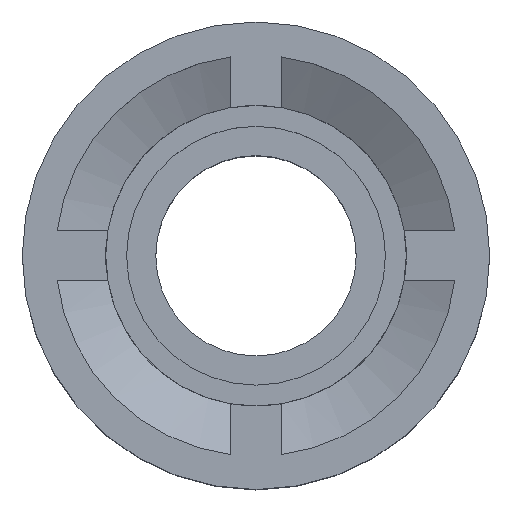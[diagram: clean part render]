
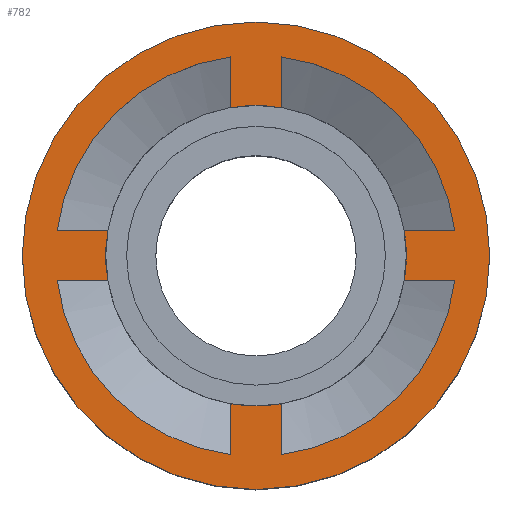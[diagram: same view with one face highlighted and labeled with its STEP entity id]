
A CAD part, top view. The second image highlights one B-rep face of the part: STEP entity #782.
In plain terms, the highlighted planar face has unit normal (0, 0, 1).
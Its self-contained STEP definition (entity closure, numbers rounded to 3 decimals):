
#21=PLANE('',#879);
#86=CIRCLE('',#851,3.6);
#88=CIRCLE('',#853,3.6);
#90=CIRCLE('',#855,3.6);
#92=CIRCLE('',#857,3.6);
#98=CIRCLE('',#868,4.8);
#99=CIRCLE('',#870,4.8);
#100=CIRCLE('',#872,4.8);
#101=CIRCLE('',#874,4.8);
#104=CIRCLE('',#880,5.6);
#216=ORIENTED_EDGE('',*,*,#409,.F.);
#217=ORIENTED_EDGE('',*,*,#418,.T.);
#218=ORIENTED_EDGE('',*,*,#386,.T.);
#219=ORIENTED_EDGE('',*,*,#419,.T.);
#220=ORIENTED_EDGE('',*,*,#412,.F.);
#221=ORIENTED_EDGE('',*,*,#420,.F.);
#222=ORIENTED_EDGE('',*,*,#382,.F.);
#223=ORIENTED_EDGE('',*,*,#421,.F.);
#224=ORIENTED_EDGE('',*,*,#414,.F.);
#225=ORIENTED_EDGE('',*,*,#422,.F.);
#226=ORIENTED_EDGE('',*,*,#378,.F.);
#227=ORIENTED_EDGE('',*,*,#423,.F.);
#228=ORIENTED_EDGE('',*,*,#405,.F.);
#229=ORIENTED_EDGE('',*,*,#424,.T.);
#230=ORIENTED_EDGE('',*,*,#390,.T.);
#231=ORIENTED_EDGE('',*,*,#425,.T.);
#232=ORIENTED_EDGE('',*,*,#426,.T.);
#378=EDGE_CURVE('',#480,#481,#86,.F.);
#382=EDGE_CURVE('',#484,#485,#88,.F.);
#386=EDGE_CURVE('',#489,#488,#90,.F.);
#390=EDGE_CURVE('',#478,#492,#92,.F.);
#405=EDGE_CURVE('',#502,#503,#98,.T.);
#409=EDGE_CURVE('',#505,#504,#99,.T.);
#412=EDGE_CURVE('',#507,#506,#100,.T.);
#414=EDGE_CURVE('',#508,#509,#101,.T.);
#418=EDGE_CURVE('',#505,#489,#554,.T.);
#419=EDGE_CURVE('',#488,#506,#555,.T.);
#420=EDGE_CURVE('',#485,#507,#556,.T.);
#421=EDGE_CURVE('',#509,#484,#557,.T.);
#422=EDGE_CURVE('',#481,#508,#558,.T.);
#423=EDGE_CURVE('',#503,#480,#559,.T.);
#424=EDGE_CURVE('',#502,#478,#560,.T.);
#425=EDGE_CURVE('',#492,#504,#561,.T.);
#426=EDGE_CURVE('',#512,#512,#104,.T.);
#478=VERTEX_POINT('',#1266);
#480=VERTEX_POINT('',#1270);
#481=VERTEX_POINT('',#1272);
#484=VERTEX_POINT('',#1278);
#485=VERTEX_POINT('',#1280);
#488=VERTEX_POINT('',#1286);
#489=VERTEX_POINT('',#1288);
#492=VERTEX_POINT('',#1294);
#502=VERTEX_POINT('',#1348);
#503=VERTEX_POINT('',#1350);
#504=VERTEX_POINT('',#1354);
#505=VERTEX_POINT('',#1356);
#506=VERTEX_POINT('',#1360);
#507=VERTEX_POINT('',#1362);
#508=VERTEX_POINT('',#1366);
#509=VERTEX_POINT('',#1368);
#512=VERTEX_POINT('',#1386);
#554=LINE('',#1377,#602);
#555=LINE('',#1378,#603);
#556=LINE('',#1379,#604);
#557=LINE('',#1380,#605);
#558=LINE('',#1381,#606);
#559=LINE('',#1382,#607);
#560=LINE('',#1383,#608);
#561=LINE('',#1384,#609);
#602=VECTOR('',#1065,1000.);
#603=VECTOR('',#1066,1000.);
#604=VECTOR('',#1067,1000.);
#605=VECTOR('',#1068,1000.);
#606=VECTOR('',#1069,1000.);
#607=VECTOR('',#1070,1000.);
#608=VECTOR('',#1071,1000.);
#609=VECTOR('',#1072,1000.);
#642=EDGE_LOOP('',(#216,#217,#218,#219,#220,#221,#222,#223,#224,#225,#226,
#227,#228,#229,#230,#231));
#643=EDGE_LOOP('',(#232));
#706=FACE_BOUND('',#642,.T.);
#707=FACE_BOUND('',#643,.T.);
#782=ADVANCED_FACE('',(#706,#707),#21,.T.);
#851=AXIS2_PLACEMENT_3D('',#1271,#993,#994);
#853=AXIS2_PLACEMENT_3D('',#1279,#999,#1000);
#855=AXIS2_PLACEMENT_3D('',#1287,#1005,#1006);
#857=AXIS2_PLACEMENT_3D('',#1295,#1011,#1012);
#868=AXIS2_PLACEMENT_3D('',#1349,#1034,#1035);
#870=AXIS2_PLACEMENT_3D('',#1357,#1041,#1042);
#872=AXIS2_PLACEMENT_3D('',#1363,#1047,#1048);
#874=AXIS2_PLACEMENT_3D('',#1367,#1052,#1053);
#879=AXIS2_PLACEMENT_3D('',#1376,#1063,#1064);
#880=AXIS2_PLACEMENT_3D('',#1385,#1073,#1074);
#993=DIRECTION('',(0.,0.,-1.));
#994=DIRECTION('',(-1.,0.,0.));
#999=DIRECTION('',(0.,0.,-1.));
#1000=DIRECTION('',(-1.,0.,0.));
#1005=DIRECTION('',(0.,0.,1.));
#1006=DIRECTION('',(1.,0.,0.));
#1011=DIRECTION('',(0.,0.,1.));
#1012=DIRECTION('',(1.,0.,0.));
#1034=DIRECTION('',(0.,0.,1.));
#1035=DIRECTION('',(1.,0.,0.));
#1041=DIRECTION('',(0.,0.,1.));
#1042=DIRECTION('',(1.,0.,0.));
#1047=DIRECTION('',(0.,0.,1.));
#1048=DIRECTION('',(1.,0.,0.));
#1052=DIRECTION('',(0.,0.,1.));
#1053=DIRECTION('',(1.,0.,0.));
#1063=DIRECTION('',(0.,0.,1.));
#1064=DIRECTION('',(1.,0.,0.));
#1065=DIRECTION('',(-1.,0.,0.));
#1066=DIRECTION('',(1.,0.,0.));
#1067=DIRECTION('',(0.,-1.,0.));
#1068=DIRECTION('',(0.,1.,0.));
#1069=DIRECTION('',(-1.,0.,0.));
#1070=DIRECTION('',(1.,0.,0.));
#1071=DIRECTION('',(0.,-1.,0.));
#1072=DIRECTION('',(0.,1.,0.));
#1073=DIRECTION('',(0.,0.,1.));
#1074=DIRECTION('',(1.,0.,0.));
#1266=CARTESIAN_POINT('',(-0.6,3.55,7.2));
#1270=CARTESIAN_POINT('',(-3.55,0.6,7.2));
#1271=CARTESIAN_POINT('',(0.,0.,7.2));
#1272=CARTESIAN_POINT('',(-3.55,-0.6,7.2));
#1278=CARTESIAN_POINT('',(-0.6,-3.55,7.2));
#1279=CARTESIAN_POINT('',(0.,0.,7.2));
#1280=CARTESIAN_POINT('',(0.6,-3.55,7.2));
#1286=CARTESIAN_POINT('',(3.55,-0.6,7.2));
#1287=CARTESIAN_POINT('',(0.,0.,7.2));
#1288=CARTESIAN_POINT('',(3.55,0.6,7.2));
#1294=CARTESIAN_POINT('',(0.6,3.55,7.2));
#1295=CARTESIAN_POINT('',(0.,0.,7.2));
#1348=CARTESIAN_POINT('',(-0.6,4.762,7.2));
#1349=CARTESIAN_POINT('',(0.,0.,7.2));
#1350=CARTESIAN_POINT('',(-4.762,0.6,7.2));
#1354=CARTESIAN_POINT('',(0.6,4.762,7.2));
#1356=CARTESIAN_POINT('',(4.762,0.6,7.2));
#1357=CARTESIAN_POINT('',(0.,0.,7.2));
#1360=CARTESIAN_POINT('',(4.762,-0.6,7.2));
#1362=CARTESIAN_POINT('',(0.6,-4.762,7.2));
#1363=CARTESIAN_POINT('',(0.,0.,7.2));
#1366=CARTESIAN_POINT('',(-4.762,-0.6,7.2));
#1367=CARTESIAN_POINT('',(0.,0.,7.2));
#1368=CARTESIAN_POINT('',(-0.6,-4.762,7.2));
#1376=CARTESIAN_POINT('',(4.8,0.,7.2));
#1377=CARTESIAN_POINT('',(4.8,0.6,7.2));
#1378=CARTESIAN_POINT('',(3.55,-0.6,7.2));
#1379=CARTESIAN_POINT('',(0.6,-3.55,7.2));
#1380=CARTESIAN_POINT('',(-0.6,-4.8,7.2));
#1381=CARTESIAN_POINT('',(-4.8,-0.6,7.2));
#1382=CARTESIAN_POINT('',(-3.55,0.6,7.2));
#1383=CARTESIAN_POINT('',(-0.6,4.8,7.2));
#1384=CARTESIAN_POINT('',(0.6,3.55,7.2));
#1385=CARTESIAN_POINT('',(0.,0.,7.2));
#1386=CARTESIAN_POINT('',(5.6,0.,7.2));
